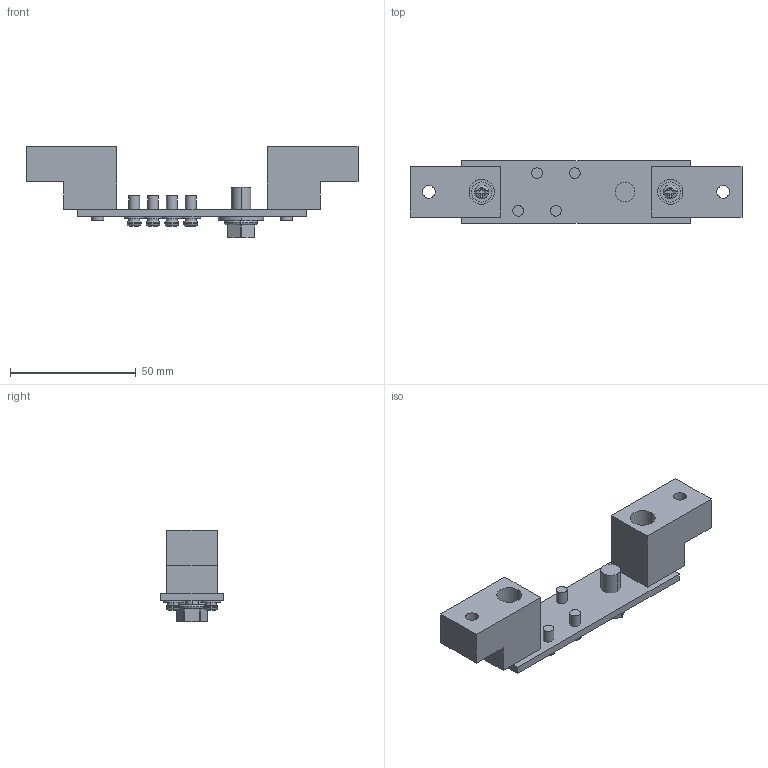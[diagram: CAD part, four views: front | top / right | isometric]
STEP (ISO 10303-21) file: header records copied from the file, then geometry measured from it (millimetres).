
FILE_DESCRIPTION(('Creo Elements/Direct Modeling STEP Export'),'2;1');
FILE_NAME('5N.stp','2025-07-23T16:44:12',(''),(''),'PTC Creo Elements/Direct Modeling STEP processor for AP214 (Solid Model)','PTC Creo Elements/Direct Modeling 19.0 09-May-2014 (C) Parametric Technology GmbH','');
FILE_SCHEMA(('AUTOMOTIVE_DESIGN { 1 0 10303 214 1 1 1 1 }'));
Length unit declared in the file: millimetre
Products named in the file (19): HOLD_1.PRT; CU.PRT; QUILT_3-85900.PRT; QUILT_2-85520.PRT; QUILT_1-66120.PRT; USER_LIBRARY-SAN_ZU_HE_LU-53220.PRT; M5_1_1_1_1_1_1_1_1_1_1_1_1_1_1.ASM; SCREW_1_2_PRT.PRT; SCREW_1_1_PRT.PRT; SCREW_1_ASM.ASM; SCREW_0723_STP.ASM; QUILT_3-34740.PRT; QUILT_2-34360.PRT; QUILT_1-14960.PRT; USER_LIBRARY-SAN_ZU_HE_LUO-2060.PRT; M5_1_1_1_1_1_1_1_1_2.ASM.6; A1.ASM; 17N_1.ASM; 7N
Assembly tree (23 placements, depth 5):
  7N
    17N_1.ASM
      HOLD_1.PRT  x2
      M5_1_1_1_1_1_1_1_1_2.ASM.6  x2
        USER_LIBRARY-SAN_ZU_HE_LUO-2060.PRT
        QUILT_1-14960.PRT
        QUILT_2-34360.PRT
        QUILT_3-34740.PRT
      A1.ASM
        M5_1_1_1_1_1_1_1_1_2.ASM.6  x2
          USER_LIBRARY-SAN_ZU_HE_LUO-2060.PRT
          QUILT_1-14960.PRT
          QUILT_2-34360.PRT
          QUILT_3-34740.PRT
      SCREW_0723_STP.ASM
        SCREW_1_ASM.ASM
          SCREW_1_1_PRT.PRT
          SCREW_1_2_PRT.PRT
      M5_1_1_1_1_1_1_1_1_1_1_1_1_1_1.ASM  x2
        USER_LIBRARY-SAN_ZU_HE_LU-53220.PRT
        QUILT_1-66120.PRT
        QUILT_2-85520.PRT
        QUILT_3-85900.PRT
      CU.PRT
Bounding box: 132 x 25 x 36.2 mm (x, y, z)
Volume: 33570.3 mm3; surface area: 18666.2 mm2
Topology: 17 solids, 17 shells, 338 faces, 844 edges, 554 vertices
Faces by surface type: plane 190, cylinder 120, torus 28
Entity records: 6030 total; most frequent: CARTESIAN_POINT 971, DIRECTION 822, ORIENTED_EDGE 820, EDGE_CURVE 410, AXIS2_PLACEMENT_3D 299, VERTEX_POINT 270, VECTOR 224, LINE 224
